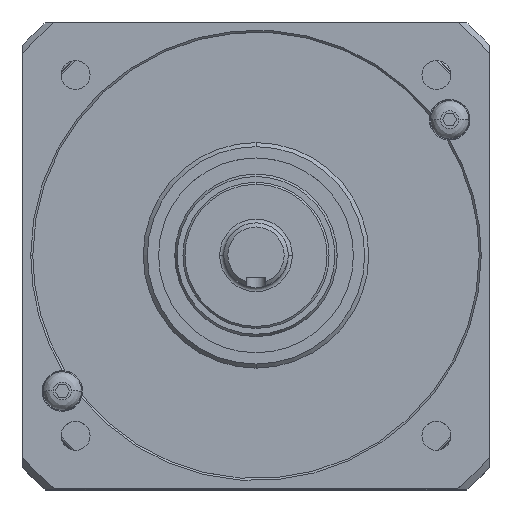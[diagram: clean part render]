
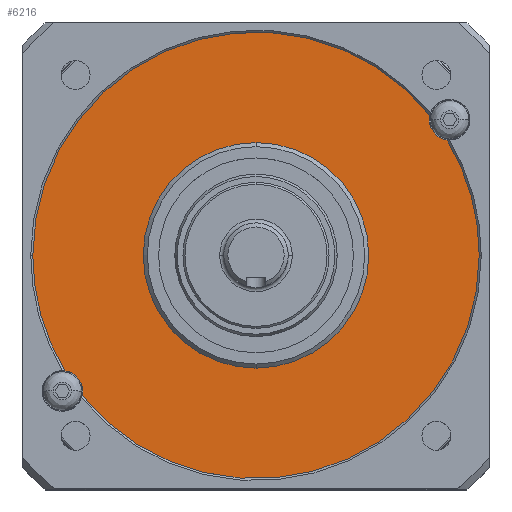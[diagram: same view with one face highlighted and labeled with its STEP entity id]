
A CAD part, top view. The second image highlights one B-rep face of the part: STEP entity #6216.
In plain terms, the highlighted planar face has unit normal (0, 0, 1).
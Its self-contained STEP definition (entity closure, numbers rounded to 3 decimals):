
#5985=CARTESIAN_POINT('',(0.,0.,77.899));
#5986=DIRECTION('',(0.,0.,-1.));
#5987=DIRECTION('',(0.,1.,0.));
#5988=AXIS2_PLACEMENT_3D('',#5985,#5986,#5987);
#5990=CARTESIAN_POINT('',(0.,0.,77.899));
#5991=DIRECTION('',(0.,0.,-1.));
#5992=DIRECTION('',(0.,-1.,0.));
#5993=AXIS2_PLACEMENT_3D('',#5990,#5991,#5992);
#5995=CARTESIAN_POINT('',(0.,0.,77.899));
#5996=DIRECTION('',(0.,0.,-1.));
#5997=DIRECTION('',(0.856,0.517,0.));
#5998=AXIS2_PLACEMENT_3D('',#5995,#5996,#5997);
#6000=CARTESIAN_POINT('',(0.,0.,77.899));
#6001=DIRECTION('',(0.,0.,-1.));
#6002=DIRECTION('',(1.,0.,0.));
#6003=AXIS2_PLACEMENT_3D('',#6000,#6001,#6002);
#6005=CARTESIAN_POINT('',(0.,0.,77.899));
#6006=DIRECTION('',(0.,0.,-1.));
#6007=DIRECTION('',(-0.856,-0.517,0.));
#6008=AXIS2_PLACEMENT_3D('',#6005,#6006,#6007);
#6010=CARTESIAN_POINT('',(0.,0.,77.899));
#6011=DIRECTION('',(0.,0.,-1.));
#6012=DIRECTION('',(-1.,0.,0.));
#6013=AXIS2_PLACEMENT_3D('',#6010,#6011,#6012);
#6015=CARTESIAN_POINT('',(-47.716,-33.411,77.899));
#6016=DIRECTION('',(0.,0.,-1.));
#6017=DIRECTION('',(0.129,0.992,0.));
#6018=AXIS2_PLACEMENT_3D('',#6015,#6016,#6017);
#6033=CARTESIAN_POINT('',(47.716,33.411,77.899));
#6034=DIRECTION('',(0.,0.,-1.));
#6035=DIRECTION('',(-0.129,-0.992,0.));
#6036=AXIS2_PLACEMENT_3D('',#6033,#6034,#6035);
#6067=CARTESIAN_POINT('',(0.,27.775,77.899));
#6068=CARTESIAN_POINT('',(0.,-27.775,77.899));
#6069=VERTEX_POINT('',#6067);
#6070=VERTEX_POINT('',#6068);
#6071=CARTESIAN_POINT('',(55.,0.,77.899));
#6072=CARTESIAN_POINT('',(47.068,28.453,77.899));
#6073=VERTEX_POINT('',#6071);
#6074=VERTEX_POINT('',#6072);
#6075=CARTESIAN_POINT('',(42.835,34.498,77.899));
#6076=CARTESIAN_POINT('',(-55.,0.,77.899));
#6077=VERTEX_POINT('',#6075);
#6078=VERTEX_POINT('',#6076);
#6079=CARTESIAN_POINT('',(-47.068,-28.453,77.899));
#6080=VERTEX_POINT('',#6079);
#6081=CARTESIAN_POINT('',(-42.835,-34.498,77.899));
#6082=VERTEX_POINT('',#6081);
#6193=CARTESIAN_POINT('',(0.,0.,77.899));
#6194=DIRECTION('',(0.,0.,1.));
#6195=DIRECTION('',(0.,1.,0.));
#6196=AXIS2_PLACEMENT_3D('',#6193,#6194,#6195);
#6197=PLANE('',#6196);
#6199=ORIENTED_EDGE('',*,*,#6198,.T.);
#6201=ORIENTED_EDGE('',*,*,#6200,.T.);
#6203=ORIENTED_EDGE('',*,*,#6202,.F.);
#6205=ORIENTED_EDGE('',*,*,#6204,.T.);
#6207=ORIENTED_EDGE('',*,*,#6206,.T.);
#6209=ORIENTED_EDGE('',*,*,#6208,.F.);
#6210=EDGE_LOOP('',(#6199,#6201,#6203,#6205,#6207,#6209));
#6211=FACE_OUTER_BOUND('',#6210,.F.);
#6212=ORIENTED_EDGE('',*,*,#6187,.F.);
#6213=ORIENTED_EDGE('',*,*,#6173,.F.);
#6214=EDGE_LOOP('',(#6212,#6213));
#6215=FACE_BOUND('',#6214,.F.);
#6216=ADVANCED_FACE('',(#6211,#6215),#6197,.T.);
#5989=CIRCLE('',#5988,27.775);
#5994=CIRCLE('',#5993,27.775);
#5999=CIRCLE('',#5998,55.);
#6004=CIRCLE('',#6003,55.);
#6009=CIRCLE('',#6008,55.);
#6014=CIRCLE('',#6013,55.);
#6019=CIRCLE('',#6018,5.);
#6037=CIRCLE('',#6036,5.);
#6173=EDGE_CURVE('',#6070,#6069,#5994,.T.);
#6187=EDGE_CURVE('',#6069,#6070,#5989,.T.);
#6198=EDGE_CURVE('',#6074,#6073,#5999,.T.);
#6200=EDGE_CURVE('',#6073,#6082,#6004,.T.);
#6202=EDGE_CURVE('',#6080,#6082,#6019,.T.);
#6204=EDGE_CURVE('',#6080,#6078,#6009,.T.);
#6206=EDGE_CURVE('',#6078,#6077,#6014,.T.);
#6208=EDGE_CURVE('',#6074,#6077,#6037,.T.);
